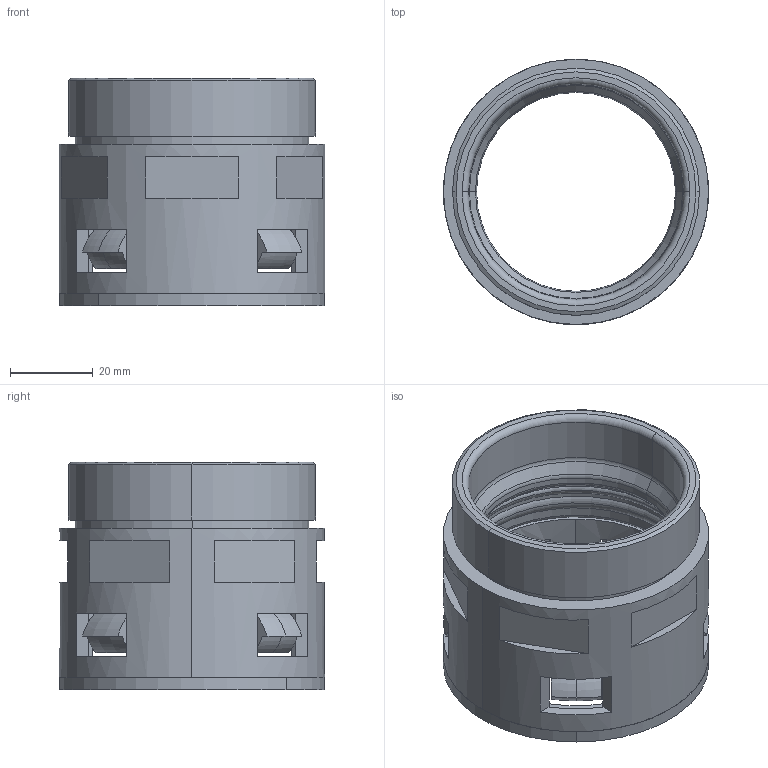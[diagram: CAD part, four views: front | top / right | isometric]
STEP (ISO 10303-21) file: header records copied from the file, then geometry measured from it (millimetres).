
FILE_DESCRIPTION (( 'STEP AP203' ), '1' );
FILE_NAME ('WQG-G2-AD54.5.STEP', '2020-03-11T04:28:30', ( '' ), ( '' ), 'SwSTEP 2.0', 'SolidWorks 2016', '' );
FILE_SCHEMA (( 'CONFIG_CONTROL_DESIGN' ));
Length unit declared in the file: millimetre
Products named in the file (4): WQG-G2-AD54.5-01; NSK-AD54.5; GFD-AD54.5; WQG-G2-AD54.5
Assembly tree (3 placements, depth 2):
  WQG-G2-AD54.5
    WQG-G2-AD54.5-01
    GFD-AD54.5
    NSK-AD54.5
Bounding box: 64 x 64 x 55 mm (x, y, z)
Volume: 39722.5 mm3; surface area: 38520.8 mm2
Topology: 3 solids, 3 shells, 363 faces, 923 edges, 586 vertices
Faces by surface type: plane 165, cylinder 117, cone 51, torus 30
Entity records: 11733 total; most frequent: CARTESIAN_POINT 2356, DIRECTION 1985, ORIENTED_EDGE 1846, EDGE_CURVE 923, AXIS2_PLACEMENT_3D 805, VERTEX_POINT 586, CIRCLE 436, EDGE_LOOP 405
